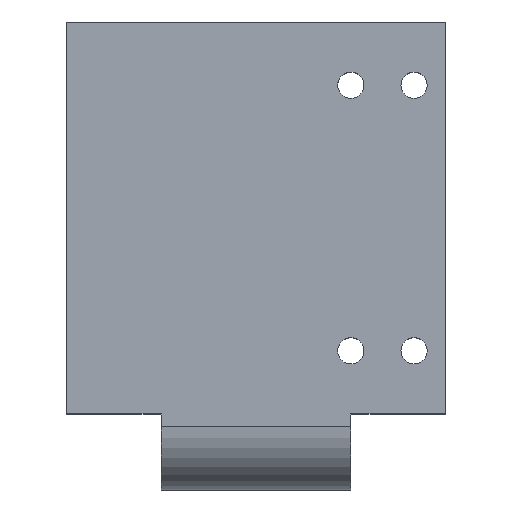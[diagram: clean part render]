
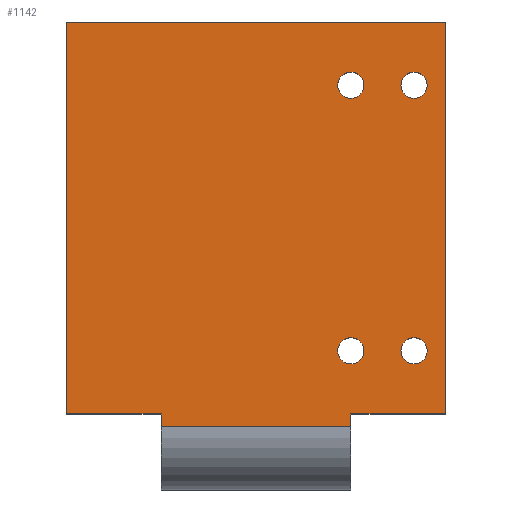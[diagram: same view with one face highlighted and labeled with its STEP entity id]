
A CAD part, top view. The second image highlights one B-rep face of the part: STEP entity #1142.
In plain terms, the highlighted planar face has unit normal (0, 0, 1).
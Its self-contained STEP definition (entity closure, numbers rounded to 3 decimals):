
#24 = EDGE_CURVE ( 'NONE', #1306, #962, #342, .T. ) ;
#26 = VECTOR ( 'NONE', #212, 1000. ) ;
#33 = CARTESIAN_POINT ( 'NONE',  ( 0., -20., 0. ) ) ;
#41 = VERTEX_POINT ( 'NONE', #980 ) ;
#44 = CIRCLE ( 'NONE', #1964, 2.067 ) ;
#77 = DIRECTION ( 'NONE',  ( 0., -1., 0. ) ) ;
#81 = FACE_OUTER_BOUND ( 'NONE', #1937, .T. ) ;
#88 = FACE_BOUND ( 'NONE', #1497, .T. ) ;
#89 = FACE_BOUND ( 'NONE', #649, .T. ) ;
#97 = AXIS2_PLACEMENT_3D ( 'NONE', #1344, #1997, #2151 ) ;
#117 = LINE ( 'NONE', #1163, #26 ) ;
#119 = DIRECTION ( 'NONE',  ( 0., 0., 1. ) ) ;
#120 = LINE ( 'NONE', #760, #251 ) ;
#130 = ORIENTED_EDGE ( 'NONE', *, *, #1093, .F. ) ;
#148 = CARTESIAN_POINT ( 'NONE',  ( 45., 32., 0. ) ) ;
#167 = CARTESIAN_POINT ( 'NONE',  ( 55., -10., 0. ) ) ;
#172 = LINE ( 'NONE', #1321, #223 ) ;
#181 = DIRECTION ( 'NONE',  ( 1., 0., 0. ) ) ;
#196 = CIRCLE ( 'NONE', #2140, 2.067 ) ;
#203 = DIRECTION ( 'NONE',  ( -1., 0., 0. ) ) ;
#212 = DIRECTION ( 'NONE',  ( 0., 1., 0. ) ) ;
#220 = DIRECTION ( 'NONE',  ( 1., 0., 0. ) ) ;
#223 = VECTOR ( 'NONE', #1259, 1000. ) ;
#251 = VECTOR ( 'NONE', #203, 1000. ) ;
#255 = FACE_BOUND ( 'NONE', #1424, .T. ) ;
#259 = FACE_BOUND ( 'NONE', #1080, .T. ) ;
#267 = CIRCLE ( 'NONE', #97, 2.067 ) ;
#335 = AXIS2_PLACEMENT_3D ( 'NONE', #434, #1548, #1721 ) ;
#342 = CIRCLE ( 'NONE', #1347, 2.067 ) ;
#361 = VERTEX_POINT ( 'NONE', #1505 ) ;
#378 = CARTESIAN_POINT ( 'NONE',  ( 0., 42., 0. ) ) ;
#385 = CARTESIAN_POINT ( 'NONE',  ( 57.067, 32., 0. ) ) ;
#399 = VERTEX_POINT ( 'NONE', #1845 ) ;
#413 = VERTEX_POINT ( 'NONE', #1190 ) ;
#434 = CARTESIAN_POINT ( 'NONE',  ( 45., -10., 0. ) ) ;
#460 = VERTEX_POINT ( 'NONE', #1515 ) ;
#531 = ORIENTED_EDGE ( 'NONE', *, *, #1813, .F. ) ;
#539 = AXIS2_PLACEMENT_3D ( 'NONE', #167, #119, #2100 ) ;
#546 = ORIENTED_EDGE ( 'NONE', *, *, #2028, .F. ) ;
#551 = EDGE_CURVE ( 'NONE', #41, #1181, #1699, .T. ) ;
#560 = CARTESIAN_POINT ( 'NONE',  ( 47.067, 32., 0. ) ) ;
#608 = VERTEX_POINT ( 'NONE', #560 ) ;
#649 = EDGE_LOOP ( 'NONE', ( #1057, #130 ) ) ;
#721 = CARTESIAN_POINT ( 'NONE',  ( 60., -20., 0. ) ) ;
#722 = AXIS2_PLACEMENT_3D ( 'NONE', #148, #1535, #1630 ) ;
#728 = EDGE_CURVE ( 'NONE', #1082, #361, #1351, .T. ) ;
#730 = EDGE_CURVE ( 'NONE', #399, #413, #1736, .T. ) ;
#731 = CARTESIAN_POINT ( 'NONE',  ( 45., 32., 0. ) ) ;
#735 = CIRCLE ( 'NONE', #539, 2.067 ) ;
#739 = DIRECTION ( 'NONE',  ( 0., 0., 1. ) ) ;
#756 = DIRECTION ( 'NONE',  ( 1., 0., 0. ) ) ;
#757 = ORIENTED_EDGE ( 'NONE', *, *, #728, .T. ) ;
#760 = CARTESIAN_POINT ( 'NONE',  ( 60., -20., 0. ) ) ;
#845 = ORIENTED_EDGE ( 'NONE', *, *, #551, .F. ) ;
#847 = ORIENTED_EDGE ( 'NONE', *, *, #2134, .F. ) ;
#863 = CARTESIAN_POINT ( 'NONE',  ( 60., 42., 0. ) ) ;
#887 = CARTESIAN_POINT ( 'NONE',  ( 15., 42., 0. ) ) ;
#902 = DIRECTION ( 'NONE',  ( 1., 0., 0. ) ) ;
#922 = DIRECTION ( 'NONE',  ( 0., 0., 1. ) ) ;
#923 = DIRECTION ( 'NONE',  ( 1., 0., 0. ) ) ;
#942 = VECTOR ( 'NONE', #77, 1000. ) ;
#962 = VERTEX_POINT ( 'NONE', #1566 ) ;
#980 = CARTESIAN_POINT ( 'NONE',  ( 57.067, -10., 0. ) ) ;
#993 = ORIENTED_EDGE ( 'NONE', *, *, #1519, .F. ) ;
#1051 = CARTESIAN_POINT ( 'NONE',  ( 52.933, 32., 0. ) ) ;
#1057 = ORIENTED_EDGE ( 'NONE', *, *, #1654, .F. ) ;
#1064 = CIRCLE ( 'NONE', #335, 2.067 ) ;
#1080 = EDGE_LOOP ( 'NONE', ( #546, #531 ) ) ;
#1082 = VERTEX_POINT ( 'NONE', #1462 ) ;
#1088 = CIRCLE ( 'NONE', #722, 2.067 ) ;
#1092 = DIRECTION ( 'NONE',  ( 0., 0., 1. ) ) ;
#1093 = EDGE_CURVE ( 'NONE', #1598, #1695, #44, .T. ) ;
#1114 = LINE ( 'NONE', #1748, #2133 ) ;
#1118 = DIRECTION ( 'NONE',  ( 0., 1., 0. ) ) ;
#1119 = EDGE_CURVE ( 'NONE', #399, #1303, #117, .T. ) ;
#1134 = ORIENTED_EDGE ( 'NONE', *, *, #1147, .F. ) ;
#1142 = ADVANCED_FACE ( 'NONE', ( #89, #255, #259, #88, #81 ), #1253, .F. ) ;
#1147 = EDGE_CURVE ( 'NONE', #1469, #1348, #172, .T. ) ;
#1154 = VECTOR ( 'NONE', #181, 1000. ) ;
#1163 = CARTESIAN_POINT ( 'NONE',  ( 0., 42., 0. ) ) ;
#1175 = DIRECTION ( 'NONE',  ( 1., 0., 0. ) ) ;
#1181 = VERTEX_POINT ( 'NONE', #2118 ) ;
#1190 = CARTESIAN_POINT ( 'NONE',  ( 15., -20., 0. ) ) ;
#1219 = AXIS2_PLACEMENT_3D ( 'NONE', #1829, #739, #1175 ) ;
#1238 = EDGE_CURVE ( 'NONE', #1348, #1942, #120, .T. ) ;
#1253 = PLANE ( 'NONE',  #1362 ) ;
#1259 = DIRECTION ( 'NONE',  ( 0., -1., 0. ) ) ;
#1268 = CARTESIAN_POINT ( 'NONE',  ( 0., 0., 0. ) ) ;
#1270 = LINE ( 'NONE', #1952, #942 ) ;
#1275 = DIRECTION ( 'NONE',  ( 0., 0., -1. ) ) ;
#1278 = DIRECTION ( 'NONE',  ( -1., 0., 0. ) ) ;
#1298 = CARTESIAN_POINT ( 'NONE',  ( 55., 32., 0. ) ) ;
#1303 = VERTEX_POINT ( 'NONE', #378 ) ;
#1306 = VERTEX_POINT ( 'NONE', #1336 ) ;
#1321 = CARTESIAN_POINT ( 'NONE',  ( 60., -20., 0. ) ) ;
#1336 = CARTESIAN_POINT ( 'NONE',  ( 42.933, -10., 0. ) ) ;
#1344 = CARTESIAN_POINT ( 'NONE',  ( 55., 32., 0. ) ) ;
#1347 = AXIS2_PLACEMENT_3D ( 'NONE', #2104, #922, #1910 ) ;
#1348 = VERTEX_POINT ( 'NONE', #721 ) ;
#1351 = LINE ( 'NONE', #2083, #1719 ) ;
#1362 = AXIS2_PLACEMENT_3D ( 'NONE', #1268, #1275, #1278 ) ;
#1424 = EDGE_LOOP ( 'NONE', ( #845, #847 ) ) ;
#1430 = CARTESIAN_POINT ( 'NONE',  ( 45., -20., 0. ) ) ;
#1432 = VECTOR ( 'NONE', #220, 1000. ) ;
#1452 = ORIENTED_EDGE ( 'NONE', *, *, #730, .T. ) ;
#1462 = CARTESIAN_POINT ( 'NONE',  ( 15., -22., 0. ) ) ;
#1469 = VERTEX_POINT ( 'NONE', #863 ) ;
#1497 = EDGE_LOOP ( 'NONE', ( #1929, #1995 ) ) ;
#1505 = CARTESIAN_POINT ( 'NONE',  ( 45., -22., 0. ) ) ;
#1515 = CARTESIAN_POINT ( 'NONE',  ( 42.933, 32., 0. ) ) ;
#1519 = EDGE_CURVE ( 'NONE', #1303, #1469, #1965, .T. ) ;
#1535 = DIRECTION ( 'NONE',  ( 0., 0., 1. ) ) ;
#1548 = DIRECTION ( 'NONE',  ( 0., 0., 1. ) ) ;
#1555 = ORIENTED_EDGE ( 'NONE', *, *, #1941, .F. ) ;
#1566 = CARTESIAN_POINT ( 'NONE',  ( 47.067, -10., 0. ) ) ;
#1580 = EDGE_CURVE ( 'NONE', #1082, #413, #1114, .T. ) ;
#1598 = VERTEX_POINT ( 'NONE', #1051 ) ;
#1630 = DIRECTION ( 'NONE',  ( 1., 0., 0. ) ) ;
#1654 = EDGE_CURVE ( 'NONE', #1695, #1598, #267, .T. ) ;
#1695 = VERTEX_POINT ( 'NONE', #385 ) ;
#1698 = EDGE_CURVE ( 'NONE', #962, #1306, #1064, .T. ) ;
#1699 = CIRCLE ( 'NONE', #1219, 2.067 ) ;
#1719 = VECTOR ( 'NONE', #923, 1000. ) ;
#1721 = DIRECTION ( 'NONE',  ( 1., 0., 0. ) ) ;
#1736 = LINE ( 'NONE', #33, #1432 ) ;
#1748 = CARTESIAN_POINT ( 'NONE',  ( 15., -32., 0. ) ) ;
#1813 = EDGE_CURVE ( 'NONE', #460, #608, #196, .T. ) ;
#1822 = DIRECTION ( 'NONE',  ( 0., 0., 1. ) ) ;
#1823 = ORIENTED_EDGE ( 'NONE', *, *, #1580, .F. ) ;
#1829 = CARTESIAN_POINT ( 'NONE',  ( 55., -10., 0. ) ) ;
#1832 = ORIENTED_EDGE ( 'NONE', *, *, #1119, .F. ) ;
#1845 = CARTESIAN_POINT ( 'NONE',  ( 0., -20., 0. ) ) ;
#1850 = ORIENTED_EDGE ( 'NONE', *, *, #1238, .F. ) ;
#1910 = DIRECTION ( 'NONE',  ( 1., 0., 0. ) ) ;
#1929 = ORIENTED_EDGE ( 'NONE', *, *, #1698, .F. ) ;
#1937 = EDGE_LOOP ( 'NONE', ( #1823, #757, #1555, #1850, #1134, #993, #1832, #1452 ) ) ;
#1941 = EDGE_CURVE ( 'NONE', #1942, #361, #1270, .T. ) ;
#1942 = VERTEX_POINT ( 'NONE', #1430 ) ;
#1952 = CARTESIAN_POINT ( 'NONE',  ( 45., 42., 0. ) ) ;
#1964 = AXIS2_PLACEMENT_3D ( 'NONE', #1298, #1092, #756 ) ;
#1965 = LINE ( 'NONE', #887, #1154 ) ;
#1995 = ORIENTED_EDGE ( 'NONE', *, *, #24, .F. ) ;
#1997 = DIRECTION ( 'NONE',  ( 0., 0., 1. ) ) ;
#2028 = EDGE_CURVE ( 'NONE', #608, #460, #1088, .T. ) ;
#2083 = CARTESIAN_POINT ( 'NONE',  ( 45., -22., 0. ) ) ;
#2100 = DIRECTION ( 'NONE',  ( 1., 0., 0. ) ) ;
#2104 = CARTESIAN_POINT ( 'NONE',  ( 45., -10., 0. ) ) ;
#2118 = CARTESIAN_POINT ( 'NONE',  ( 52.933, -10., 0. ) ) ;
#2133 = VECTOR ( 'NONE', #1118, 1000. ) ;
#2134 = EDGE_CURVE ( 'NONE', #1181, #41, #735, .T. ) ;
#2140 = AXIS2_PLACEMENT_3D ( 'NONE', #731, #1822, #902 ) ;
#2151 = DIRECTION ( 'NONE',  ( 1., 0., 0. ) ) ;
